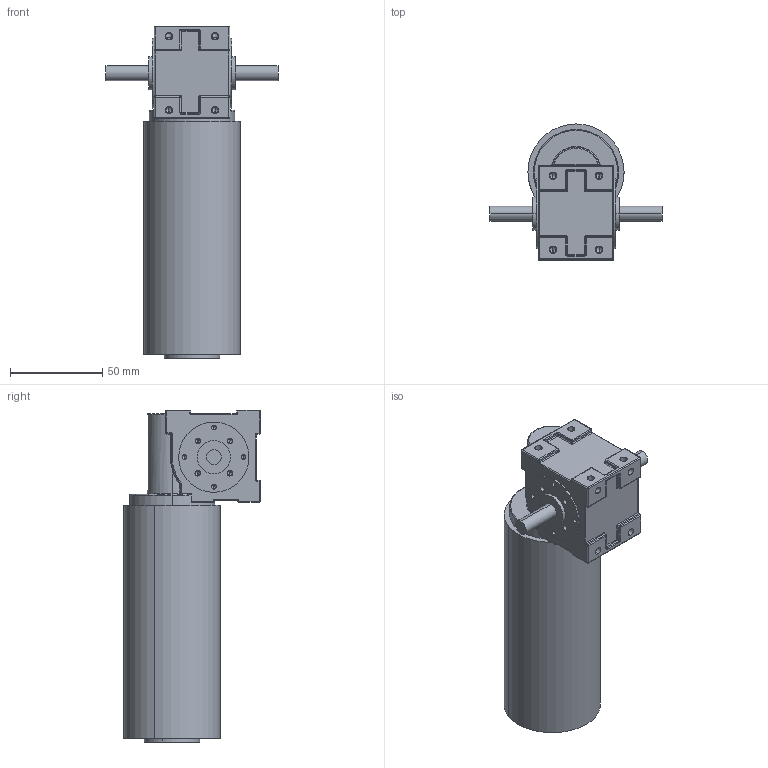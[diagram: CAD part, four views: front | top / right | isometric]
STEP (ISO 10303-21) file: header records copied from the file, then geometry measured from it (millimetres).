
FILE_DESCRIPTION (( 'STEP AP214' ), '1' );
FILE_NAME ('SN15-54W-1+2.STEP', '2007-04-25T09:26:40', ( ' ' ), ( ' ' ), 'SwSTEP 2.0', 'SolidWorks 2006233', '' );
FILE_SCHEMA (( 'AUTOMOTIVE_DESIGN' ));
Length unit declared in the file: millimetre
Products named in the file (3): SN15-54W-1+2; 54W-GP_Standard; SN15-Lose_Standard
Assembly tree (2 placements, depth 2):
  SN15-54W-1+2
    SN15-Lose_Standard
    54W-GP_Standard
Bounding box: 93 x 73.62 x 179.5 mm (x, y, z)
Volume: 384047.3 mm3; surface area: 44348 mm2
Topology: 2 solids, 2 shells, 438 faces, 1023 edges, 541 vertices
Faces by surface type: cylinder 230, plane 72, cone 44, sphere 40, torus 38, bspline 14
Entity records: 12493 total; most frequent: CARTESIAN_POINT 2865, DIRECTION 2185, ORIENTED_EDGE 1868, EDGE_CURVE 934, AXIS2_PLACEMENT_3D 897, VERTEX_POINT 541, EDGE_LOOP 483, CIRCLE 468
